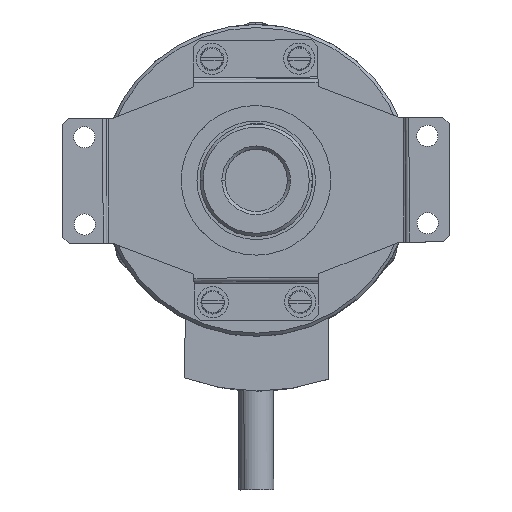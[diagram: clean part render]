
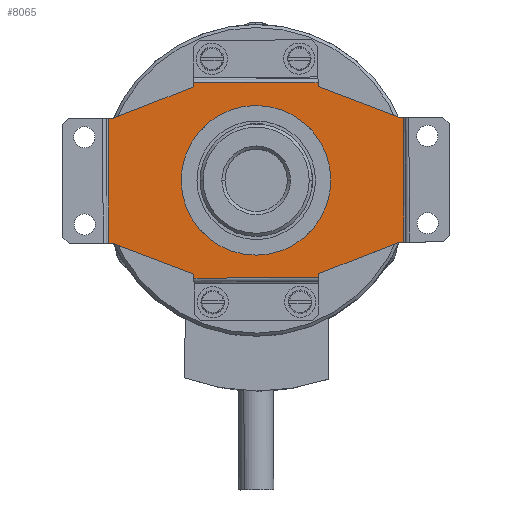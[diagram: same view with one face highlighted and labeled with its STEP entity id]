
A CAD part, top view. The second image highlights one B-rep face of the part: STEP entity #8065.
In plain terms, the highlighted planar face has unit normal (0, 0, 1).
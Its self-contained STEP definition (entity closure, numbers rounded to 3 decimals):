
#16 = DIRECTION ( 'NONE',  ( 0., 0., 1. ) ) ;
#207 = EDGE_CURVE ( 'NONE', #9442, #11788, #5481, .T. ) ;
#215 = EDGE_CURVE ( 'NONE', #11788, #7554, #5236, .T. ) ;
#260 = LINE ( 'NONE', #19263, #8031 ) ;
#271 = EDGE_CURVE ( 'NONE', #7554, #11810, #4768, .T. ) ;
#303 = EDGE_CURVE ( 'NONE', #11810, #11456, #4717, .T. ) ;
#338 = CARTESIAN_POINT ( 'NONE',  ( -0.655, 38.68, 50.835 ) ) ;
#366 = EDGE_CURVE ( 'NONE', #6482, #4014, #4323, .T. ) ;
#388 = EDGE_CURVE ( 'NONE', #12670, #9110, #4230, .T. ) ;
#391 = EDGE_CURVE ( 'NONE', #11280, #9668, #4282, .T. ) ;
#836 = DIRECTION ( 'NONE',  ( 0.932, 0.362, 0. ) ) ;
#1178 = CARTESIAN_POINT ( 'NONE',  ( 32.883, 68.893, 50.835 ) ) ;
#1179 = CARTESIAN_POINT ( 'NONE',  ( 35.027, 28.809, 50.835 ) ) ;
#1243 = DIRECTION ( 'NONE',  ( -0.004, 1., 0. ) ) ;
#1448 = VERTEX_POINT ( 'NONE', #5253 ) ;
#1550 = DIRECTION ( 'NONE',  ( -1., -0.004, 0. ) ) ;
#1672 = DIRECTION ( 'NONE',  ( 1., 0.004, 0. ) ) ;
#1773 = CARTESIAN_POINT ( 'NONE',  ( 45.991, 38.848, 50.835 ) ) ;
#1789 = VERTEX_POINT ( 'NONE', #14989 ) ;
#1849 = DIRECTION ( 'NONE',  ( 0., 0., 1. ) ) ;
#1960 = CARTESIAN_POINT ( 'NONE',  ( 23.028, 28.766, 50.835 ) ) ;
#2308 = CARTESIAN_POINT ( 'NONE',  ( 11.028, 28.722, 50.835 ) ) ;
#2356 = CARTESIAN_POINT ( 'NONE',  ( 46.638, 38.851, 50.835 ) ) ;
#2796 = VERTEX_POINT ( 'NONE', #17471 ) ;
#3008 = LINE ( 'NONE', #11157, #10672 ) ;
#3073 = CARTESIAN_POINT ( 'NONE',  ( 33.081, 13.802, 50.835 ) ) ;
#3254 = DIRECTION ( 'NONE',  ( -0.004, 1., 0. ) ) ;
#3732 = LINE ( 'NONE', #1178, #14954 ) ;
#3852 = CARTESIAN_POINT ( 'NONE',  ( -0.583, 18.681, 50.835 ) ) ;
#4014 = VERTEX_POINT ( 'NONE', #2308 ) ;
#4070 = VECTOR ( 'NONE', #1550, 1000. ) ;
#4115 = VECTOR ( 'NONE', #3254, 1000. ) ;
#4230 = LINE ( 'NONE', #3073, #4115 ) ;
#4282 = LINE ( 'NONE', #1773, #4070 ) ;
#4323 = CIRCLE ( 'NONE', #13093, 12. ) ;
#4428 = LINE ( 'NONE', #15486, #16172 ) ;
#4462 = EDGE_LOOP ( 'NONE', ( #13853, #13869 ) ) ;
#4479 = CARTESIAN_POINT ( 'NONE',  ( 0.064, 18.683, 50.835 ) ) ;
#4511 = VECTOR ( 'NONE', #5251, 1000. ) ;
#4618 = EDGE_LOOP ( 'NONE', ( #13949, #13959, #13984, #14058, #14174, #5830, #14201, #14209, #14242, #8563, #14254, #14325, #14341, #14397, #14415, #14495 ) ) ;
#4717 = LINE ( 'NONE', #5471, #4511 ) ;
#4731 = VECTOR ( 'NONE', #5827, 1000. ) ;
#4768 = LINE ( 'NONE', #5895, #4731 ) ;
#5028 = VECTOR ( 'NONE', #6238, 1000. ) ;
#5200 = VECTOR ( 'NONE', #6475, 1000. ) ;
#5236 = LINE ( 'NONE', #6890, #5028 ) ;
#5251 = DIRECTION ( 'NONE',  ( 0.004, -1., 0. ) ) ;
#5253 = CARTESIAN_POINT ( 'NONE',  ( 32.971, 44.448, 50.835 ) ) ;
#5471 = CARTESIAN_POINT ( 'NONE',  ( 13.082, 13.73, 50.835 ) ) ;
#5481 = LINE ( 'NONE', #6101, #5200 ) ;
#5827 = DIRECTION ( 'NONE',  ( 0.935, -0.356, 0. ) ) ;
#5830 = ORIENTED_EDGE ( 'NONE', *, *, #18696, .T. ) ;
#5895 = CARTESIAN_POINT ( 'NONE',  ( 0.064, 18.683, 50.835 ) ) ;
#6101 = CARTESIAN_POINT ( 'NONE',  ( -0.619, 28.681, 50.835 ) ) ;
#6114 = FACE_BOUND ( 'NONE', #4462, .T. ) ;
#6168 = FACE_OUTER_BOUND ( 'NONE', #4618, .T. ) ;
#6238 = DIRECTION ( 'NONE',  ( 1., 0.004, 0. ) ) ;
#6297 = DIRECTION ( 'NONE',  ( -0.004, 1., 0. ) ) ;
#6475 = DIRECTION ( 'NONE',  ( 0.004, -1., 0. ) ) ;
#6482 = VERTEX_POINT ( 'NONE', #1179 ) ;
#6493 = VERTEX_POINT ( 'NONE', #19640 ) ;
#6890 = CARTESIAN_POINT ( 'NONE',  ( -32.485, 18.566, 50.835 ) ) ;
#7064 = DIRECTION ( 'NONE',  ( -0.932, -0.362, 0. ) ) ;
#7250 = DIRECTION ( 'NONE',  ( 0., 0., -1. ) ) ;
#7541 = LINE ( 'NONE', #10134, #15220 ) ;
#7554 = VERTEX_POINT ( 'NONE', #4479 ) ;
#7754 = VECTOR ( 'NONE', #9959, 1000. ) ;
#7772 = VECTOR ( 'NONE', #11964, 1000. ) ;
#8031 = VECTOR ( 'NONE', #836, 1000. ) ;
#8065 = ADVANCED_FACE ( 'NONE', ( #6114, #6168 ), #10266, .F. ) ;
#8261 = LINE ( 'NONE', #19149, #7754 ) ;
#8563 = ORIENTED_EDGE ( 'NONE', *, *, #19250, .T. ) ;
#8726 = DIRECTION ( 'NONE',  ( -1., -0.004, 0. ) ) ;
#8799 = LINE ( 'NONE', #11896, #12405 ) ;
#8859 = VERTEX_POINT ( 'NONE', #17593 ) ;
#9110 = VERTEX_POINT ( 'NONE', #16274 ) ;
#9262 = CARTESIAN_POINT ( 'NONE',  ( 12.974, 43.73, 50.835 ) ) ;
#9342 = CARTESIAN_POINT ( 'NONE',  ( 23.028, 28.766, 50.835 ) ) ;
#9442 = VERTEX_POINT ( 'NONE', #338 ) ;
#9668 = VERTEX_POINT ( 'NONE', #9810 ) ;
#9769 = CARTESIAN_POINT ( 'NONE',  ( 13.084, 13.083, 50.835 ) ) ;
#9810 = CARTESIAN_POINT ( 'NONE',  ( 45.991, 38.848, 50.835 ) ) ;
#9921 = LINE ( 'NONE', #16332, #13529 ) ;
#9959 = DIRECTION ( 'NONE',  ( 0.004, -1., 0. ) ) ;
#10134 = CARTESIAN_POINT ( 'NONE',  ( 46.063, 18.849, 50.835 ) ) ;
#10266 = PLANE ( 'NONE',  #11050 ) ;
#10312 = DIRECTION ( 'NONE',  ( -1., -0.004, 0. ) ) ;
#10427 = VECTOR ( 'NONE', #7064, 1000. ) ;
#10672 = VECTOR ( 'NONE', #12710, 1000. ) ;
#10881 = DIRECTION ( 'NONE',  ( 1., 0.004, 0. ) ) ;
#11050 = AXIS2_PLACEMENT_3D ( 'NONE', #16434, #7250, #17964 ) ;
#11157 = CARTESIAN_POINT ( 'NONE',  ( 23.084, 13.119, 50.835 ) ) ;
#11280 = VERTEX_POINT ( 'NONE', #2356 ) ;
#11406 = VERTEX_POINT ( 'NONE', #9262 ) ;
#11456 = VERTEX_POINT ( 'NONE', #9769 ) ;
#11712 = DIRECTION ( 'NONE',  ( 1., 0.004, 0. ) ) ;
#11788 = VERTEX_POINT ( 'NONE', #3852 ) ;
#11810 = VERTEX_POINT ( 'NONE', #14583 ) ;
#11896 = CARTESIAN_POINT ( 'NONE',  ( 22.971, 44.412, 50.835 ) ) ;
#11964 = DIRECTION ( 'NONE',  ( -0.935, 0.356, 0. ) ) ;
#12405 = VECTOR ( 'NONE', #10312, 1000. ) ;
#12670 = VERTEX_POINT ( 'NONE', #18962 ) ;
#12710 = DIRECTION ( 'NONE',  ( 1., 0.004, 0. ) ) ;
#13093 = AXIS2_PLACEMENT_3D ( 'NONE', #1960, #1849, #1672 ) ;
#13529 = VECTOR ( 'NONE', #8726, 1000. ) ;
#13853 = ORIENTED_EDGE ( 'NONE', *, *, #18054, .F. ) ;
#13869 = ORIENTED_EDGE ( 'NONE', *, *, #366, .F. ) ;
#13949 = ORIENTED_EDGE ( 'NONE', *, *, #303, .T. ) ;
#13959 = ORIENTED_EDGE ( 'NONE', *, *, #18820, .T. ) ;
#13984 = ORIENTED_EDGE ( 'NONE', *, *, #388, .T. ) ;
#14058 = ORIENTED_EDGE ( 'NONE', *, *, #18249, .T. ) ;
#14174 = ORIENTED_EDGE ( 'NONE', *, *, #18285, .T. ) ;
#14201 = ORIENTED_EDGE ( 'NONE', *, *, #391, .T. ) ;
#14209 = ORIENTED_EDGE ( 'NONE', *, *, #19283, .T. ) ;
#14242 = ORIENTED_EDGE ( 'NONE', *, *, #19319, .T. ) ;
#14254 = ORIENTED_EDGE ( 'NONE', *, *, #19782, .T. ) ;
#14325 = ORIENTED_EDGE ( 'NONE', *, *, #19876, .T. ) ;
#14341 = ORIENTED_EDGE ( 'NONE', *, *, #19906, .T. ) ;
#14397 = ORIENTED_EDGE ( 'NONE', *, *, #207, .T. ) ;
#14415 = ORIENTED_EDGE ( 'NONE', *, *, #215, .T. ) ;
#14421 = LINE ( 'NONE', #14669, #10427 ) ;
#14495 = ORIENTED_EDGE ( 'NONE', *, *, #271, .T. ) ;
#14519 = AXIS2_PLACEMENT_3D ( 'NONE', #9342, #16, #10881 ) ;
#14583 = CARTESIAN_POINT ( 'NONE',  ( 13.082, 13.73, 50.835 ) ) ;
#14669 = CARTESIAN_POINT ( 'NONE',  ( -0.008, 38.683, 50.835 ) ) ;
#14954 = VECTOR ( 'NONE', #1243, 1000. ) ;
#14989 = CARTESIAN_POINT ( 'NONE',  ( 32.973, 43.802, 50.835 ) ) ;
#15220 = VECTOR ( 'NONE', #11712, 1000. ) ;
#15486 = CARTESIAN_POINT ( 'NONE',  ( 46.674, 28.851, 50.835 ) ) ;
#15585 = VERTEX_POINT ( 'NONE', #16795 ) ;
#16172 = VECTOR ( 'NONE', #6297, 1000. ) ;
#16274 = CARTESIAN_POINT ( 'NONE',  ( 33.081, 13.802, 50.835 ) ) ;
#16332 = CARTESIAN_POINT ( 'NONE',  ( -32.557, 38.566, 50.835 ) ) ;
#16434 = CARTESIAN_POINT ( 'NONE',  ( 23.028, 28.766, 50.835 ) ) ;
#16795 = CARTESIAN_POINT ( 'NONE',  ( 12.971, 44.376, 50.835 ) ) ;
#17471 = CARTESIAN_POINT ( 'NONE',  ( 46.063, 18.849, 50.835 ) ) ;
#17593 = CARTESIAN_POINT ( 'NONE',  ( 46.71, 18.851, 50.835 ) ) ;
#17964 = DIRECTION ( 'NONE',  ( -1., -0.004, 0. ) ) ;
#18054 = EDGE_CURVE ( 'NONE', #4014, #6482, #19567, .T. ) ;
#18249 = EDGE_CURVE ( 'NONE', #9110, #2796, #260, .T. ) ;
#18285 = EDGE_CURVE ( 'NONE', #2796, #8859, #7541, .T. ) ;
#18696 = EDGE_CURVE ( 'NONE', #8859, #11280, #4428, .T. ) ;
#18820 = EDGE_CURVE ( 'NONE', #11456, #12670, #3008, .T. ) ;
#18962 = CARTESIAN_POINT ( 'NONE',  ( 33.084, 13.155, 50.835 ) ) ;
#19149 = CARTESIAN_POINT ( 'NONE',  ( 12.883, 68.821, 50.835 ) ) ;
#19250 = EDGE_CURVE ( 'NONE', #1448, #15585, #8799, .T. ) ;
#19263 = CARTESIAN_POINT ( 'NONE',  ( 33.081, 13.802, 50.835 ) ) ;
#19283 = EDGE_CURVE ( 'NONE', #9668, #1789, #20031, .T. ) ;
#19319 = EDGE_CURVE ( 'NONE', #1789, #1448, #3732, .T. ) ;
#19566 = CARTESIAN_POINT ( 'NONE',  ( 32.973, 43.802, 50.835 ) ) ;
#19567 = CIRCLE ( 'NONE', #14519, 12. ) ;
#19640 = CARTESIAN_POINT ( 'NONE',  ( -0.008, 38.683, 50.835 ) ) ;
#19782 = EDGE_CURVE ( 'NONE', #15585, #11406, #8261, .T. ) ;
#19876 = EDGE_CURVE ( 'NONE', #11406, #6493, #14421, .T. ) ;
#19906 = EDGE_CURVE ( 'NONE', #6493, #9442, #9921, .T. ) ;
#20031 = LINE ( 'NONE', #19566, #7772 ) ;
